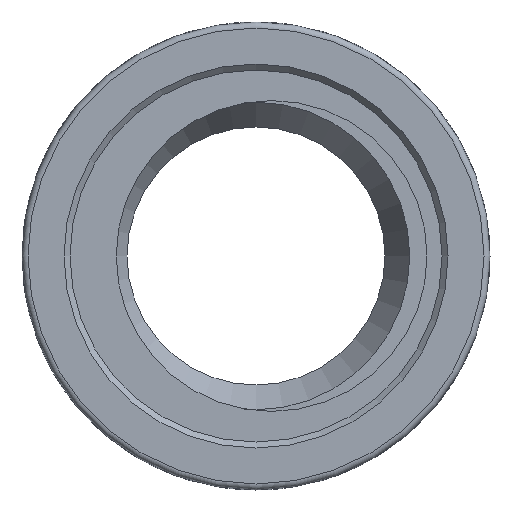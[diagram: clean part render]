
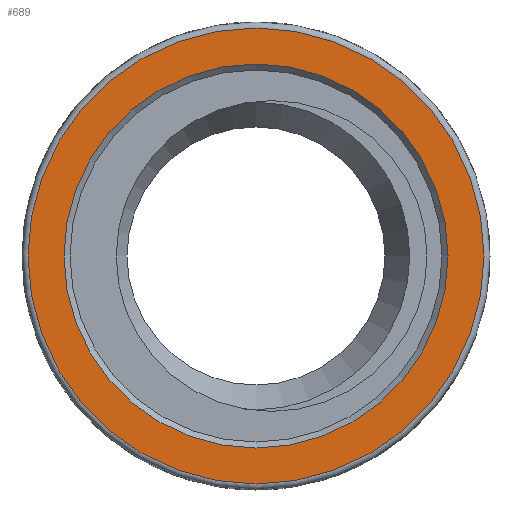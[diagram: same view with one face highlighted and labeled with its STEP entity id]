
A CAD part, front view. The second image highlights one B-rep face of the part: STEP entity #689.
In plain terms, the highlighted planar face has unit normal (0, -1, 0).
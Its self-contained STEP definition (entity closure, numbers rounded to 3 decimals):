
#55=FACE_BOUND('',#122,.T.);
#60=PLANE('',#749);
#84=FACE_OUTER_BOUND('',#121,.T.);
#121=EDGE_LOOP('',(#469,#470));
#122=EDGE_LOOP('',(#471));
#250=CIRCLE('',#748,32.);
#251=CIRCLE('',#750,38.);
#252=CIRCLE('',#751,38.);
#284=VERTEX_POINT('',#1009);
#285=VERTEX_POINT('',#1013);
#286=VERTEX_POINT('',#1014);
#360=EDGE_CURVE('',#284,#284,#250,.T.);
#361=EDGE_CURVE('',#285,#286,#251,.T.);
#362=EDGE_CURVE('',#286,#285,#252,.T.);
#469=ORIENTED_EDGE('',*,*,#361,.F.);
#470=ORIENTED_EDGE('',*,*,#362,.F.);
#471=ORIENTED_EDGE('',*,*,#360,.F.);
#689=ADVANCED_FACE('',(#84,#55),#60,.T.);
#748=AXIS2_PLACEMENT_3D('',#1011,#825,#826);
#749=AXIS2_PLACEMENT_3D('',#1012,#827,#828);
#750=AXIS2_PLACEMENT_3D('',#1015,#829,#830);
#751=AXIS2_PLACEMENT_3D('',#1016,#831,#832);
#825=DIRECTION('center_axis',(0.,-1.,0.));
#826=DIRECTION('ref_axis',(-1.,0.,0.));
#827=DIRECTION('center_axis',(0.,-1.,0.));
#828=DIRECTION('ref_axis',(0.,0.,-1.));
#829=DIRECTION('center_axis',(0.,1.,0.));
#830=DIRECTION('ref_axis',(-1.,0.,0.));
#831=DIRECTION('center_axis',(0.,1.,0.));
#832=DIRECTION('ref_axis',(-1.,0.,0.));
#1009=CARTESIAN_POINT('',(32.,0.,0.));
#1011=CARTESIAN_POINT('Origin',(0.,0.,
0.));
#1012=CARTESIAN_POINT('Origin',(31.,0.,0.));
#1013=CARTESIAN_POINT('',(38.,0.,0.));
#1014=CARTESIAN_POINT('',(0.,0.,38.));
#1015=CARTESIAN_POINT('Origin',(0.,0.,
0.));
#1016=CARTESIAN_POINT('Origin',(0.,0.,
0.));
